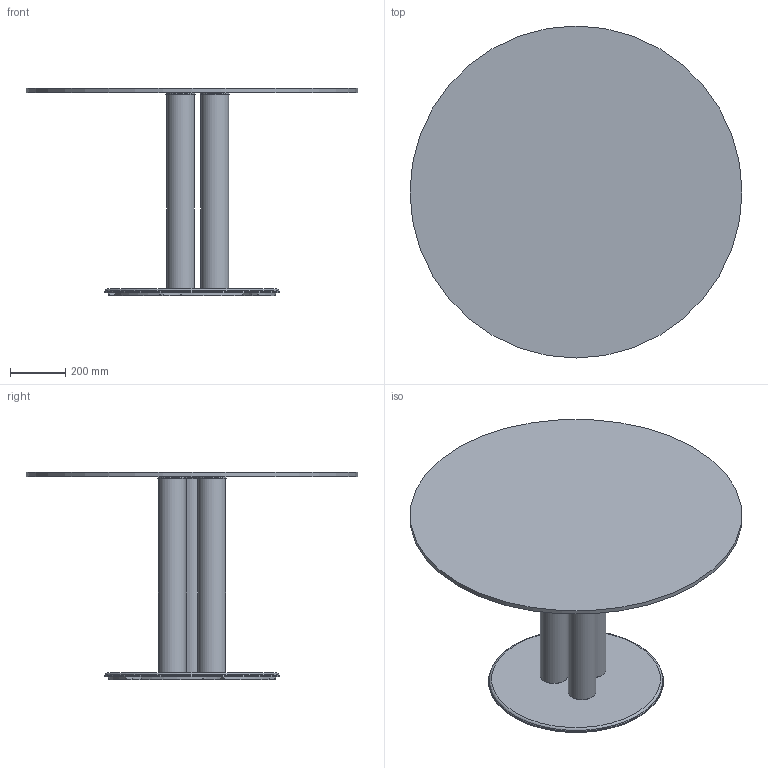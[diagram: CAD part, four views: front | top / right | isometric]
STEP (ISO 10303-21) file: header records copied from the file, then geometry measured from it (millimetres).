
FILE_DESCRIPTION(/* description */ (''),/* implementation_level */ '2;1');
FILE_NAME(/* name */ '2532-D120.stp',/* time_stamp */ '2025-03-13T20:48:23+01:00',/* author */ (''),/* organization */ (''),/* preprocessor_version */ 'ST-DEVELOPER v16.7',/* originating_system */ 'SIEMENS PLM Software NX 1934',/* authorisation */ '');
FILE_SCHEMA (('AUTOMOTIVE_DESIGN { 1 0 10303 214 3 1 1 1 }'));
Length unit declared in the file: millimetre
Products named in the file (1): franF21485C82luj
Bounding box: 1200 x 1200 x 749 mm (x, y, z)
Volume: 22901981.1 mm3; surface area: 4514044.4 mm2
Topology: 17 solids, 17 shells, 174 faces, 334 edges, 215 vertices
Faces by surface type: cylinder 68, plane 67, torus 25, cone 14
Full cylindrical faces by diameter (mm): 12 x3, 17.5 x3, 20 x6, 71 x3, 72.5 x3, 97 x3, 98.5 x3, 100 x3, 105.5 x3, 632 x1, 1200 x1
Entity records: 4153 total; most frequent: DIRECTION 784, CARTESIAN_POINT 633, ORIENTED_EDGE 506, AXIS2_PLACEMENT_3D 356, EDGE_LOOP 278, EDGE_CURVE 253, FACE_BOUND 206, VERTEX_POINT 205
